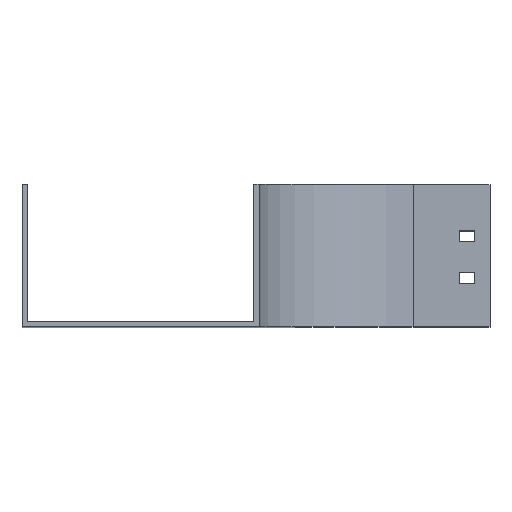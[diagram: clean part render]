
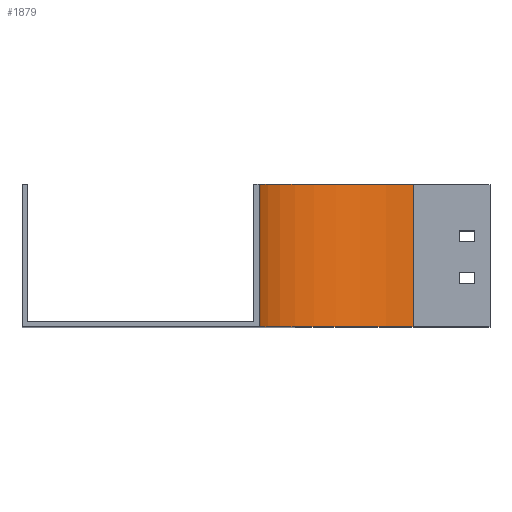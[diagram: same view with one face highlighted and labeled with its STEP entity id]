
A CAD part, top view. The second image highlights one B-rep face of the part: STEP entity #1879.
In plain terms, the highlighted cylindrical face has radius 100 mm (diameter 200 mm), a partial arc.
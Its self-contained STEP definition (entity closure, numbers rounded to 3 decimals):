
#72 = FACE_OUTER_BOUND ( 'NONE', #1325, .T. ) ;
#223 = DIRECTION ( 'NONE',  ( 0., -1., 0. ) ) ;
#275 = ORIENTED_EDGE ( 'NONE', *, *, #806, .T. ) ;
#344 = EDGE_CURVE ( 'NONE', #1585, #1849, #1174, .T. ) ;
#378 = CIRCLE ( 'NONE', #1022, 100. ) ;
#394 = CARTESIAN_POINT ( 'NONE',  ( 0., 92.5, -100. ) ) ;
#578 = CARTESIAN_POINT ( 'NONE',  ( 0., 0., -100. ) ) ;
#806 = EDGE_CURVE ( 'NONE', #1849, #1133, #378, .T. ) ;
#945 = CYLINDRICAL_SURFACE ( 'NONE', #1578, 100. ) ;
#1000 = CARTESIAN_POINT ( 'NONE',  ( 0., 0., 0. ) ) ;
#1022 = AXIS2_PLACEMENT_3D ( 'NONE', #1000, #2045, #2673 ) ;
#1115 = AXIS2_PLACEMENT_3D ( 'NONE', #1788, #1319, #1956 ) ;
#1116 = DIRECTION ( 'NONE',  ( 0., 0., -1. ) ) ;
#1133 = VERTEX_POINT ( 'NONE', #578 ) ;
#1174 = LINE ( 'NONE', #2016, #1495 ) ;
#1183 = ORIENTED_EDGE ( 'NONE', *, *, #2088, .F. ) ;
#1203 = DIRECTION ( 'NONE',  ( 0., -1., 0. ) ) ;
#1284 = ORIENTED_EDGE ( 'NONE', *, *, #344, .T. ) ;
#1319 = DIRECTION ( 'NONE',  ( 0., -1., 0. ) ) ;
#1325 = EDGE_LOOP ( 'NONE', ( #275, #1183, #2325, #1284 ) ) ;
#1434 = VERTEX_POINT ( 'NONE', #394 ) ;
#1495 = VECTOR ( 'NONE', #1203, 1000. ) ;
#1506 = CIRCLE ( 'NONE', #1115, 100. ) ;
#1559 = CARTESIAN_POINT ( 'NONE',  ( -100., 0., 0. ) ) ;
#1578 = AXIS2_PLACEMENT_3D ( 'NONE', #2129, #223, #1116 ) ;
#1585 = VERTEX_POINT ( 'NONE', #2682 ) ;
#1788 = CARTESIAN_POINT ( 'NONE',  ( 0., 92.5, 0. ) ) ;
#1795 = EDGE_CURVE ( 'NONE', #1585, #1434, #1506, .T. ) ;
#1849 = VERTEX_POINT ( 'NONE', #1559 ) ;
#1879 = ADVANCED_FACE ( 'NONE', ( #72 ), #945, .F. ) ;
#1890 = VECTOR ( 'NONE', #2078, 1000. ) ;
#1956 = DIRECTION ( 'NONE',  ( 0., 0., -1. ) ) ;
#2016 = CARTESIAN_POINT ( 'NONE',  ( -100., 92.5, 0. ) ) ;
#2045 = DIRECTION ( 'NONE',  ( 0., -1., 0. ) ) ;
#2078 = DIRECTION ( 'NONE',  ( 0., -1., 0. ) ) ;
#2088 = EDGE_CURVE ( 'NONE', #1434, #1133, #2722, .T. ) ;
#2129 = CARTESIAN_POINT ( 'NONE',  ( 0., 92.5, 0. ) ) ;
#2319 = CARTESIAN_POINT ( 'NONE',  ( 0., 92.5, -100. ) ) ;
#2325 = ORIENTED_EDGE ( 'NONE', *, *, #1795, .F. ) ;
#2673 = DIRECTION ( 'NONE',  ( 0., 0., -1. ) ) ;
#2682 = CARTESIAN_POINT ( 'NONE',  ( -100., 92.5, 0. ) ) ;
#2722 = LINE ( 'NONE', #2319, #1890 ) ;
